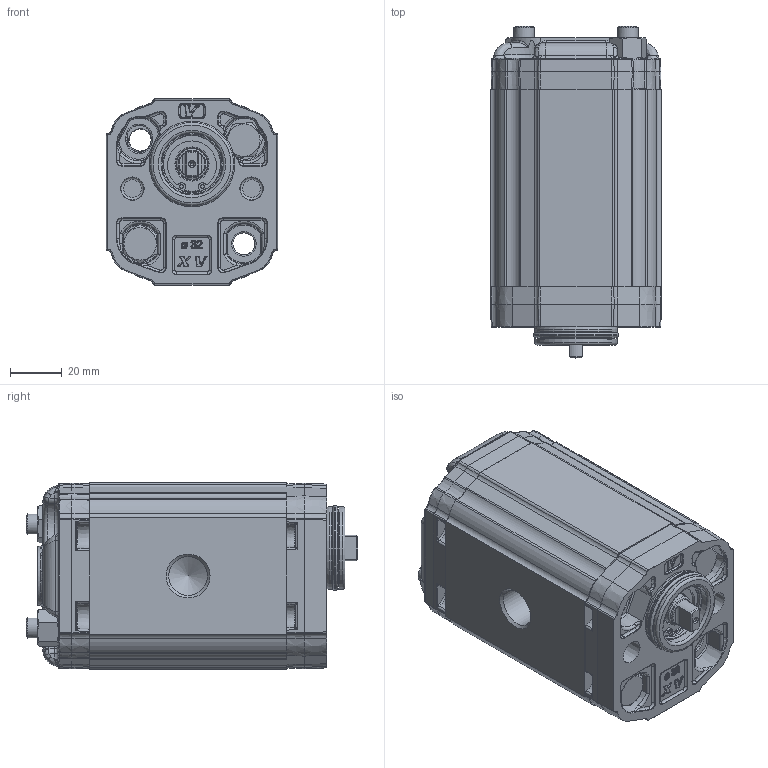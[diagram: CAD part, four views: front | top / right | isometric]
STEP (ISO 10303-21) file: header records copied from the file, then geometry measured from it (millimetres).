
FILE_DESCRIPTION(/* description */ ('Unknown'),/* implementation_level */ '2;1');
FILE_NAME(/* name */ 'X1M3631DBBE',/* time_stamp */ '2026-05-27T08:21:09+02:00',/* author */ ('Unknown'),/* organization */ ('Unknown'),/* preprocessor_version */ 'ST-DEVELOPER v16.7',/* originating_system */ 'Solid Edge',/* authorisation */ 'Unknown');
FILE_SCHEMA (('AUTOMOTIVE_DESIGN {1 0 10303 214 3 1 1}'));
Products named in the file (5): X1M3631DBBE; X1M31; 1D; X1BBH76; XM140-E
Assembly tree (4 placements, depth 2):
  X1M3631DBBE
    X1M31
    1D
    X1BBH76
    XM140-E
Bounding box: 66 x 127.99 x 72 mm (x, y, z)
Volume: 425411.9 mm3; surface area: 74968.9 mm2
Topology: 4 solids, 5 shells, 1826 faces, 4337 edges, 2534 vertices
Faces by surface type: cylinder 500, bspline 445, plane 368, torus 243, cone 208, sphere 62
Full cylindrical faces by diameter (mm): 1.447 x2, 1.5 x1, 8 x6, 8.5 x3, 9 x2, 10 x1, 10.5 x2, 11.445 x1, 11.965 x1, 12 x1, 12.4 x1, 14.95 x2, 15.115 x1, 17.147 x1, 19 x1, 20 x1, 21.8 x1, 22 x2, 22.2 x1, 23 x1, 24 x1, 29.4 x2, 32 x1, 32.96 x1
Entity records: 98705 total; most frequent: CARTESIAN_POINT 47206, ORIENTED_EDGE 8224, DIRECTION 7726, EDGE_CURVE 4112, AXIS2_PLACEMENT_3D 3303, VERTEX_POINT 2480, FACE_BOUND 2030, EDGE_LOOP 2026
